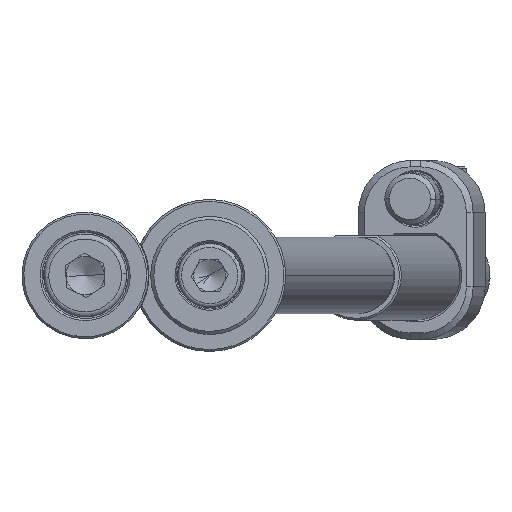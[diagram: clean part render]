
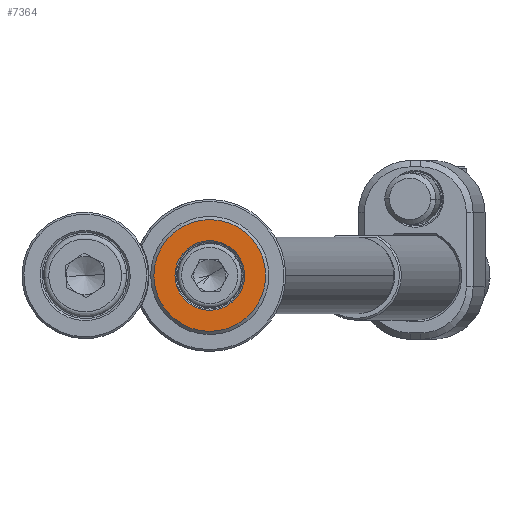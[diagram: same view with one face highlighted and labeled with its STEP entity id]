
A CAD part, front view. The second image highlights one B-rep face of the part: STEP entity #7364.
In plain terms, the highlighted planar face has unit normal (0, -1, 0).
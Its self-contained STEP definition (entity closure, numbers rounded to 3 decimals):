
#240 = DIRECTION ( 'NONE',  ( 0., 1., 0. ) ) ;
#948 = DIRECTION ( 'NONE',  ( 0., -1., 0. ) ) ;
#1123 = DIRECTION ( 'NONE',  ( -0.505, 0., 0.863 ) ) ;
#1270 = AXIS2_PLACEMENT_3D ( 'NONE', #7112, #13783, #3554 ) ;
#1974 = AXIS2_PLACEMENT_3D ( 'NONE', #6692, #3223, #1123 ) ;
#3223 = DIRECTION ( 'NONE',  ( 0., 1., 0. ) ) ;
#3440 = FACE_BOUND ( 'NONE', #4574, .T. ) ;
#3451 = VERTEX_POINT ( 'NONE', #12767 ) ;
#3554 = DIRECTION ( 'NONE',  ( -0.505, 0., 0.863 ) ) ;
#4256 = ORIENTED_EDGE ( 'NONE', *, *, #11892, .T. ) ;
#4574 = EDGE_LOOP ( 'NONE', ( #5771, #13210 ) ) ;
#5310 = CARTESIAN_POINT ( 'NONE',  ( -4.42, -4., 7.552 ) ) ;
#5739 = PLANE ( 'NONE',  #1974 ) ;
#5771 = ORIENTED_EDGE ( 'NONE', *, *, #13318, .T. ) ;
#6692 = CARTESIAN_POINT ( 'NONE',  ( -4.531, -4., -2.652 ) ) ;
#6729 = CARTESIAN_POINT ( 'NONE',  ( 0., -4., 0. ) ) ;
#6762 = CARTESIAN_POINT ( 'NONE',  ( 0., -4., 0. ) ) ;
#6812 = AXIS2_PLACEMENT_3D ( 'NONE', #9433, #13875, #6903 ) ;
#6903 = DIRECTION ( 'NONE',  ( -0.505, 0., 0.863 ) ) ;
#6925 = EDGE_CURVE ( 'NONE', #9765, #11683, #8003, .T. ) ;
#7054 = CIRCLE ( 'NONE', #6812, 8.75 ) ;
#7112 = CARTESIAN_POINT ( 'NONE',  ( 0., -4., 0. ) ) ;
#7163 = EDGE_LOOP ( 'NONE', ( #13836, #4256 ) ) ;
#7364 = ADVANCED_FACE ( 'NONE', ( #3440, #13222 ), #5739, .F. ) ;
#8003 = CIRCLE ( 'NONE', #13313, 8.75 ) ;
#8187 = VERTEX_POINT ( 'NONE', #13961 ) ;
#8651 = CARTESIAN_POINT ( 'NONE',  ( 4.42, -4., -7.552 ) ) ;
#9032 = DIRECTION ( 'NONE',  ( -0.505, 0., 0.863 ) ) ;
#9433 = CARTESIAN_POINT ( 'NONE',  ( 0., -4., 0. ) ) ;
#9684 = AXIS2_PLACEMENT_3D ( 'NONE', #6762, #240, #9032 ) ;
#9765 = VERTEX_POINT ( 'NONE', #5310 ) ;
#10882 = EDGE_CURVE ( 'NONE', #3451, #8187, #12617, .T. ) ;
#11330 = CIRCLE ( 'NONE', #9684, 5.45 ) ;
#11683 = VERTEX_POINT ( 'NONE', #8651 ) ;
#11892 = EDGE_CURVE ( 'NONE', #11683, #9765, #7054, .T. ) ;
#11957 = DIRECTION ( 'NONE',  ( -0.505, 0., 0.863 ) ) ;
#12617 = CIRCLE ( 'NONE', #1270, 5.45 ) ;
#12767 = CARTESIAN_POINT ( 'NONE',  ( -2.753, -4., 4.704 ) ) ;
#13210 = ORIENTED_EDGE ( 'NONE', *, *, #10882, .T. ) ;
#13222 = FACE_OUTER_BOUND ( 'NONE', #7163, .T. ) ;
#13313 = AXIS2_PLACEMENT_3D ( 'NONE', #6729, #948, #11957 ) ;
#13318 = EDGE_CURVE ( 'NONE', #8187, #3451, #11330, .T. ) ;
#13783 = DIRECTION ( 'NONE',  ( 0., 1., 0. ) ) ;
#13836 = ORIENTED_EDGE ( 'NONE', *, *, #6925, .T. ) ;
#13875 = DIRECTION ( 'NONE',  ( 0., -1., 0. ) ) ;
#13961 = CARTESIAN_POINT ( 'NONE',  ( 2.753, -4., -4.704 ) ) ;
